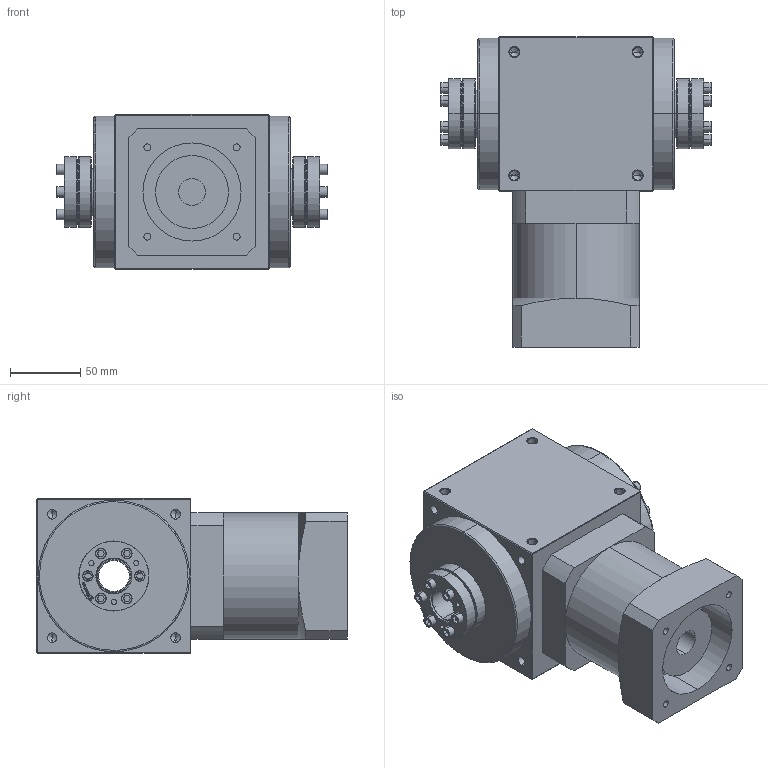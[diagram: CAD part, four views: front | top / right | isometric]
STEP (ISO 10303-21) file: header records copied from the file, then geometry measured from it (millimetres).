
FILE_DESCRIPTION (( 'STEP AP214' ), '1' );
FILE_NAME ('AT110-FC-L1--22-110-145-M8.STEP', '2020-11-10T03:29:15', ( '微软用户' ), ( '微软中国' ), 'SwSTEP 2.0', 'SolidWorks 2014', '' );
FILE_SCHEMA (( 'AUTOMOTIVE_DESIGN' ));
Length unit declared in the file: millimetre
Products named in the file (6): 83_24x50_1; AT110-FC-L1--22-110-145-m8_1; AT110-FC-L1--22-110-145-M8
Assembly tree (3 placements, depth 2):
  83_24x50_1
  83_24x50_1
  AT110-FC-L1--22-110-145-m8_1
  AT110-FC-L1--22-110-145-M8
    AT110-FC-L1--22-110-145-m8_1
    83_24x50_1  x2
Bounding box: 193 x 221.5 x 110 mm (x, y, z)
Volume: 2314137.9 mm3; surface area: 187067.2 mm2
Topology: 21 solids, 21 shells, 1012 faces, 2342 edges, 1384 vertices
Faces by surface type: cylinder 448, plane 276, cone 196, torus 80, bspline 12
Entity records: 18142 total; most frequent: CARTESIAN_POINT 4018, DIRECTION 2984, ORIENTED_EDGE 2856, EDGE_CURVE 1428, AXIS2_PLACEMENT_3D 1146, VERTEX_POINT 858, EDGE_LOOP 718, LINE 692
